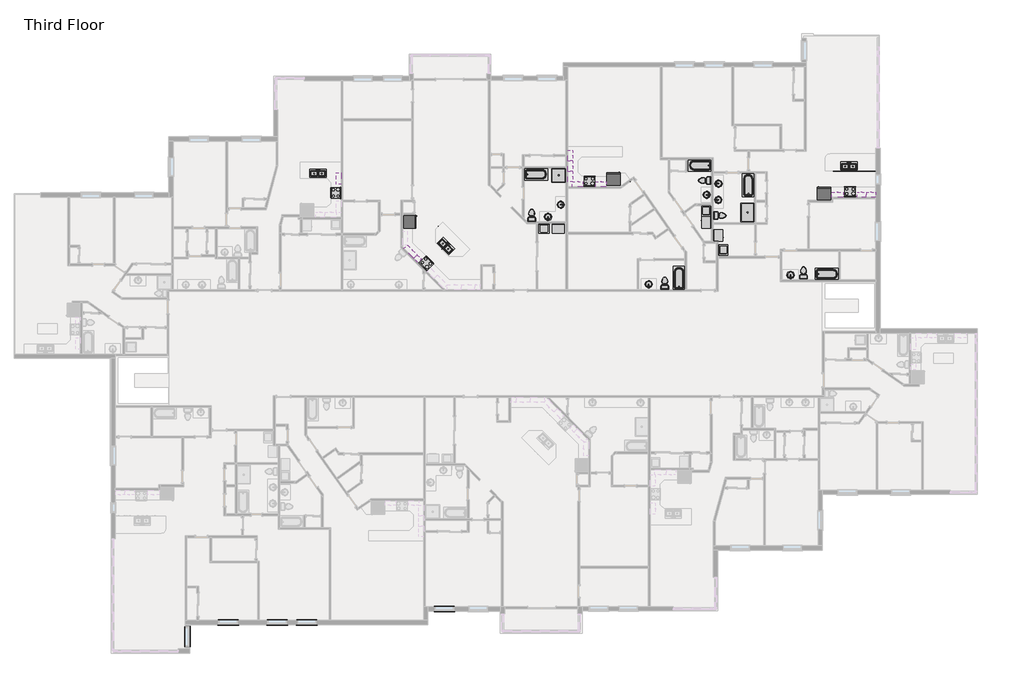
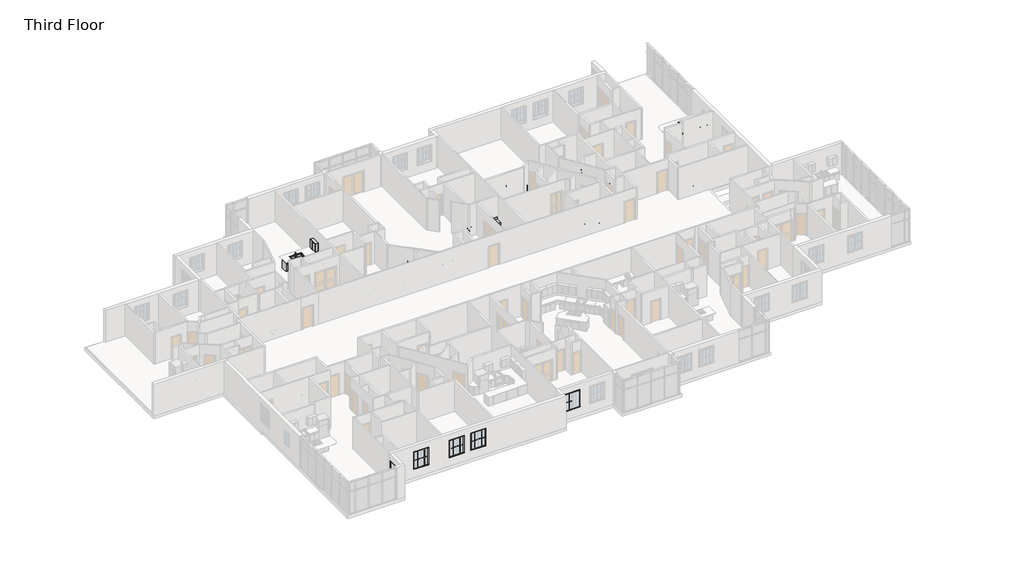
# One storey, part 16 of 17: 50 furniture elements, 32 proxies, 22 flow terminals.
"""IFC4 building model written with IfcOpenShell, lengths in millimetres."""

from ifc_helpers import new_model, si_unit, origin, place, context, project, spatial, transform, mapped, element, save
from components import proxy_6b4a07a9, muntin_pattern_2x2_muntin_pattern_2x2_6dad3731, muntin_pattern_2x2_muntin_pattern_2x2_a30a3345, proxy_fbb4c072, proxy_93150df1, proxy_9109806d, trim_window_exterior_flat_with_sill_92b9b949, trim_window_interior_flat_picture_frame_3bb882cf, proxy_718fa39f, flow_terminal_54cced83, flow_terminal_5dba0d75, flow_terminal_a53be723, flow_terminal_d49f872f, toilet_domestic_3d_toilet_domestic_3d_f7549cf7, toilet_domestic_3d_toilet_domestic_3d_183bbd19, tub_rectangular_3d_tub_rectangular_3d_72a4d900, tub_rectangular_3d_tub_rectangular_3d_cbc2c449, furniture_0fc2bd2a, furniture_337523c0, furniture_6e8794dd, furniture_07bc9410, furniture_6ace90bf, furniture_b282fead, furniture_6a014568, furniture_338da5bd, furniture_b74d3f52, furniture_7de88fd5, furniture_b4094f2d, furniture_07c0da44, furniture_bfd559e3, base_cabinet_filler_base_cabinet_filler_dff9ed13, base_cabinet_filler_base_cabinet_filler_01d9e414, base_cabinet_filler_base_cabinet_filler_890d7b95, base_cabinet_filler_base_cabinet_filler_ec835e29, base_cabinet_filler_base_cabinet_filler_5f1ac9d6, base_cabinet_filler_base_cabinet_filler_783ad0b1, base_cabinet_filler_base_cabinet_filler_ca2a3ea1, furniture_de2c603d, furniture_a8c34398, furniture_09d05a5b, furniture_b1f16c95, furniture_c6a3367d, furniture_a47b5ef4, furniture_9117db5d, furniture_b34976c1

model = new_model("IFC4")

# Units and contexts
model_context = context("Model", 3, world=origin())
ifc_project = project(units=[si_unit("LENGTHUNIT", "METRE", prefix="MILLI")], contexts=[model_context])

# Site, building, storey
site = spatial("IfcSite", under=ifc_project)
building = spatial("IfcBuilding", under=site)
storey = spatial("IfcBuildingStorey", under=building, Name="Third Floor", Elevation=6096.0)

# Proxies
placement = place(None, origin())
proxy_shape = proxy_6b4a07a9(model_context)
element("IfcBuildingElementProxy", 1, Name="Dryer : 30\" x 25\" x 35\"", ObjectType="Dryer : 30\" x 25\" x 35\"", at=placement, inside=storey, context=model_context, shape_type="MappedRepresentation", body=[
    mapped(proxy_shape, transform((35783.3803438, 6069.89864, 6096.0), x_axis=(1.0, 0.0, 0.0), y_axis=(0.0, 1.0, 0.0), z_axis=(0.0, 0.0, 1.0))),
])
element("IfcBuildingElementProxy", 2, Name="Dryer : 30\" x 25\" x 35\"", ObjectType="Dryer : 30\" x 25\" x 35\"", at=placement, inside=storey, context=model_context, shape_type="MappedRepresentation", body=[
    mapped(proxy_shape, transform((45605.9742487, 7175.2177628, 6096.0), x_axis=(0.0, -1.0, 0.0), y_axis=(1.0, 0.0, 0.0), z_axis=(0.0, 0.0, 1.0))),
])
element("IfcBuildingElementProxy", 3, Name="Dryer : 30\" x 25\" x 35\"", ObjectType="Dryer : 30\" x 25\" x 35\"", at=placement, inside=storey, context=model_context, shape_type="MappedRepresentation", body=[
    mapped(proxy_shape, transform((46984.5962563, 5488.2018914, 6096.0), x_axis=(0.0, 1.0, 0.0), y_axis=(-1.0, 0.0, 0.0), z_axis=(0.0, 0.0, 1.0))),
])
muntin_pattern_2x2_muntin_pattern_2x2_shape = muntin_pattern_2x2_muntin_pattern_2x2_6dad3731(model_context)
element("IfcBuildingElementProxy", 4, Name="Muntin Pattern_2x2 : Muntin Pattern_2x2", ObjectType="Muntin Pattern_2x2 : Muntin Pattern_2x2", at=placement, inside=storey, context=model_context, shape_type="MappedRepresentation", body=[
    mapped(muntin_pattern_2x2_muntin_pattern_2x2_shape, transform((20022.0240862, -19586.3365506, 7080.25), x_axis=(-1.0, 0.0, 0.0), y_axis=(0.0, -1.0, 0.0), z_axis=(0.0, 0.0, 1.0))),
])
element("IfcBuildingElementProxy", 5, Name="Muntin Pattern_2x2 : Muntin Pattern_2x2", ObjectType="Muntin Pattern_2x2 : Muntin Pattern_2x2", at=placement, inside=storey, context=model_context, shape_type="MappedRepresentation", body=[
    mapped(muntin_pattern_2x2_muntin_pattern_2x2_shape, transform((14867.9478712, -19586.3365506, 7080.25), x_axis=(-1.0, 0.0, 0.0), y_axis=(0.0, -1.0, 0.0), z_axis=(0.0, 0.0, 1.0))),
])
element("IfcBuildingElementProxy", 6, Name="Muntin Pattern_2x2 : Muntin Pattern_2x2", ObjectType="Muntin Pattern_2x2 : Muntin Pattern_2x2", at=placement, inside=storey, context=model_context, shape_type="MappedRepresentation", body=[
    mapped(muntin_pattern_2x2_muntin_pattern_2x2_shape, transform((18076.672872, -19586.3365506, 7080.25), x_axis=(-1.0, 0.0, 0.0), y_axis=(0.0, -1.0, 0.0), z_axis=(0.0, 0.0, 1.0))),
])
element("IfcBuildingElementProxy", 7, Name="Muntin Pattern_2x2 : Muntin Pattern_2x2", ObjectType="Muntin Pattern_2x2 : Muntin Pattern_2x2", at=placement, inside=storey, context=model_context, shape_type="MappedRepresentation", body=[
    mapped(muntin_pattern_2x2_muntin_pattern_2x2_shape, transform((12023.5634633, -20077.9243287, 7080.25), x_axis=(0.0, -1.0, 0.0), y_axis=(1.0, 0.0, 0.0), z_axis=(0.0, 0.0, 1.0))),
])
muntin_pattern_2x2_muntin_pattern_2x2_2_shape = muntin_pattern_2x2_muntin_pattern_2x2_a30a3345(model_context)
element("IfcBuildingElementProxy", 8, Name="Muntin Pattern_2x2 : Muntin Pattern_2x2", ObjectType="Muntin Pattern_2x2 : Muntin Pattern_2x2", at=placement, inside=storey, context=model_context, shape_type="MappedRepresentation", body=[
    mapped(muntin_pattern_2x2_muntin_pattern_2x2_2_shape, transform((19415.5990862, -19586.3365506, 7080.25), x_axis=(1.0, 0.0, 0.0), y_axis=(0.0, 1.0, 0.0), z_axis=(0.0, 0.0, 1.0))),
])
element("IfcBuildingElementProxy", 9, Name="Muntin Pattern_2x2 : Muntin Pattern_2x2", ObjectType="Muntin Pattern_2x2 : Muntin Pattern_2x2", at=placement, inside=storey, context=model_context, shape_type="MappedRepresentation", body=[
    mapped(muntin_pattern_2x2_muntin_pattern_2x2_2_shape, transform((14261.5228712, -19586.3365506, 7080.25), x_axis=(1.0, 0.0, 0.0), y_axis=(0.0, 1.0, 0.0), z_axis=(0.0, 0.0, 1.0))),
])
element("IfcBuildingElementProxy", 10, Name="Muntin Pattern_2x2 : Muntin Pattern_2x2", ObjectType="Muntin Pattern_2x2 : Muntin Pattern_2x2", at=placement, inside=storey, context=model_context, shape_type="MappedRepresentation", body=[
    mapped(muntin_pattern_2x2_muntin_pattern_2x2_2_shape, transform((28431.0115862, -18699.3191587, 7080.25), x_axis=(1.0, 0.0, 0.0), y_axis=(0.0, 1.0, 0.0), z_axis=(0.0, 0.0, 1.0))),
])
element("IfcBuildingElementProxy", 11, Name="Muntin Pattern_2x2 : Muntin Pattern_2x2", ObjectType="Muntin Pattern_2x2 : Muntin Pattern_2x2", at=placement, inside=storey, context=model_context, shape_type="MappedRepresentation", body=[
    mapped(muntin_pattern_2x2_muntin_pattern_2x2_2_shape, transform((17470.247872, -19586.3365506, 7080.25), x_axis=(1.0, 0.0, 0.0), y_axis=(0.0, 1.0, 0.0), z_axis=(0.0, 0.0, 1.0))),
])
element("IfcBuildingElementProxy", 12, Name="Muntin Pattern_2x2 : Muntin Pattern_2x2", ObjectType="Muntin Pattern_2x2 : Muntin Pattern_2x2", at=placement, inside=storey, context=model_context, shape_type="MappedRepresentation", body=[
    mapped(muntin_pattern_2x2_muntin_pattern_2x2_2_shape, transform((12023.5634633, -20684.3493287, 7080.25), x_axis=(0.0, 1.0, 0.0), y_axis=(-1.0, 0.0, 0.0), z_axis=(0.0, 0.0, 1.0))),
])
proxy_2_shape = proxy_fbb4c072(model_context)
element("IfcBuildingElementProxy", 13, Name="Range : 30\" x 26\"", ObjectType="Range : 30\" x 26\"", at=placement, inside=storey, context=model_context, shape_type="MappedRepresentation", body=[
    mapped(proxy_2_shape, transform((55706.1485135, 9105.3667096, 6096.0), x_axis=(-1.0, 0.0, 0.0), y_axis=(0.0, -1.0, 0.0), z_axis=(0.0, 0.0, 1.0))),
])
element("IfcBuildingElementProxy", 14, Name="Range : 30\" x 26\"", ObjectType="Range : 30\" x 26\"", at=placement, inside=storey, context=model_context, shape_type="MappedRepresentation", body=[
    mapped(proxy_2_shape, transform((38622.0783397, 9780.1410099, 6096.0), x_axis=(-1.0, 0.0, 0.0), y_axis=(0.0, -1.0, 0.0), z_axis=(0.0, 0.0, 1.0))),
])
element("IfcBuildingElementProxy", 15, Name="Range : 30\" x 26\"", ObjectType="Range : 30\" x 26\"", at=placement, inside=storey, context=model_context, shape_type="MappedRepresentation", body=[
    mapped(proxy_2_shape, transform((28043.6511381, 4045.4027795, 6096.0), x_axis=(-0.7071067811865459, 0.7071067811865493, 0.0), y_axis=(-0.7071067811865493, -0.7071067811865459, 0.0), z_axis=(0.0, 0.0, 1.0))),
])
element("IfcBuildingElementProxy", 16, Name="Range : 30\" x 26\"", ObjectType="Range : 30\" x 26\"", at=placement, inside=storey, context=model_context, shape_type="MappedRepresentation", body=[
    mapped(proxy_2_shape, transform((21305.5073571, 9084.405075, 6096.0), x_axis=(0.0, -1.0, 0.0), y_axis=(1.0, 0.0, 0.0), z_axis=(0.0, 0.0, 1.0))),
])
proxy_3_shape = proxy_93150df1(model_context)
element("IfcBuildingElementProxy", 17, Name="Refrigerator : 35\" x 32\" LH", ObjectType="Refrigerator : 35\" x 32\" LH", at=placement, inside=storey, context=model_context, shape_type="MappedRepresentation", body=[
    mapped(proxy_3_shape, transform((39817.0847694, 9590.3888634, 6096.0), x_axis=(-1.0, 0.0, 0.0), y_axis=(0.0, -1.0, 0.0), z_axis=(0.0, 0.0, 1.0))),
])
proxy_4_shape = proxy_9109806d(model_context)
element("IfcBuildingElementProxy", 18, Name="Refrigerator : 35\" x 32\" RH", ObjectType="Refrigerator : 35\" x 32\" RH", at=placement, inside=storey, context=model_context, shape_type="MappedRepresentation", body=[
    mapped(proxy_4_shape, transform((53624.9360135, 8648.9949749, 6096.0), x_axis=(-1.0, 0.0, 0.0), y_axis=(0.0, -1.0, 0.0), z_axis=(0.0, 0.0, 1.0))),
])
element("IfcBuildingElementProxy", 19, Name="Refrigerator : 35\" x 32\" RH", ObjectType="Refrigerator : 35\" x 32\" RH", at=placement, inside=storey, context=model_context, shape_type="MappedRepresentation", body=[
    mapped(proxy_4_shape, transform((26450.70388, 6811.7574244, 6096.0), x_axis=(0.0020172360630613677, 0.9999979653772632, 0.0), y_axis=(-0.9999979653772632, 0.0020172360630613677, 0.0), z_axis=(0.0, 0.0, 1.0))),
])
trim_window_exterior_flat_with_sill_shape = trim_window_exterior_flat_with_sill_92b9b949(model_context)
element("IfcBuildingElementProxy", 20, Name="Trim-Window-Exterior-Flat : with Sill", ObjectType="Trim-Window-Exterior-Flat : with Sill", at=placement, inside=storey, context=model_context, shape_type="MappedRepresentation", body=[
    mapped(trim_window_exterior_flat_with_sill_shape, transform((19718.8115862, -19595.8615506, 8534.4), x_axis=(1.0, 0.0, 0.0), y_axis=(0.0, 0.0, 1.0), z_axis=(0.0, -1.0, 0.0))),
])
element("IfcBuildingElementProxy", 21, Name="Trim-Window-Exterior-Flat : with Sill", ObjectType="Trim-Window-Exterior-Flat : with Sill", at=placement, inside=storey, context=model_context, shape_type="MappedRepresentation", body=[
    mapped(trim_window_exterior_flat_with_sill_shape, transform((14564.7353712, -19595.8615506, 8534.4), x_axis=(1.0, 0.0, 0.0), y_axis=(0.0, 0.0, 1.0), z_axis=(0.0, -1.0, 0.0))),
])
element("IfcBuildingElementProxy", 22, Name="Trim-Window-Exterior-Flat : with Sill", ObjectType="Trim-Window-Exterior-Flat : with Sill", at=placement, inside=storey, context=model_context, shape_type="MappedRepresentation", body=[
    mapped(trim_window_exterior_flat_with_sill_shape, transform((28734.2240862, -18708.8441587, 8534.4), x_axis=(1.0, 0.0, 0.0), y_axis=(0.0, 0.0, 1.0), z_axis=(0.0, -1.0, 0.0))),
])
element("IfcBuildingElementProxy", 23, Name="Trim-Window-Exterior-Flat : with Sill", ObjectType="Trim-Window-Exterior-Flat : with Sill", at=placement, inside=storey, context=model_context, shape_type="MappedRepresentation", body=[
    mapped(trim_window_exterior_flat_with_sill_shape, transform((17773.460372, -19595.8615506, 8534.4), x_axis=(1.0, 0.0, 0.0), y_axis=(0.0, 0.0, 1.0), z_axis=(0.0, -1.0, 0.0))),
])
element("IfcBuildingElementProxy", 24, Name="Trim-Window-Exterior-Flat : with Sill", ObjectType="Trim-Window-Exterior-Flat : with Sill", at=placement, inside=storey, context=model_context, shape_type="MappedRepresentation", body=[
    mapped(trim_window_exterior_flat_with_sill_shape, transform((12033.0884633, -20381.1368287, 8534.4), x_axis=(0.0, 1.0, 0.0), y_axis=(0.0, 0.0, 1.0), z_axis=(1.0, 0.0, 0.0))),
])
trim_window_interior_flat_picture_frame_shape = trim_window_interior_flat_picture_frame_3bb882cf(model_context)
element("IfcBuildingElementProxy", 25, Name="Trim-Window-Interior-Flat : Picture Frame", ObjectType="Trim-Window-Interior-Flat : Picture Frame", at=placement, inside=storey, context=model_context, shape_type="MappedRepresentation", body=[
    mapped(trim_window_interior_flat_picture_frame_shape, transform((19718.8115862, -19313.2865506, 8534.4), x_axis=(-1.0, 0.0, 0.0), y_axis=(0.0, 0.0, 1.0), z_axis=(0.0, 1.0, 0.0))),
])
element("IfcBuildingElementProxy", 26, Name="Trim-Window-Interior-Flat : Picture Frame", ObjectType="Trim-Window-Interior-Flat : Picture Frame", at=placement, inside=storey, context=model_context, shape_type="MappedRepresentation", body=[
    mapped(trim_window_interior_flat_picture_frame_shape, transform((14564.7353712, -19313.2865506, 8534.4), x_axis=(-1.0, 0.0, 0.0), y_axis=(0.0, 0.0, 1.0), z_axis=(0.0, 1.0, 0.0))),
])
element("IfcBuildingElementProxy", 27, Name="Trim-Window-Interior-Flat : Picture Frame", ObjectType="Trim-Window-Interior-Flat : Picture Frame", at=placement, inside=storey, context=model_context, shape_type="MappedRepresentation", body=[
    mapped(trim_window_interior_flat_picture_frame_shape, transform((28734.2240862, -18426.2691587, 8534.4), x_axis=(-1.0, 0.0, 0.0), y_axis=(0.0, 0.0, 1.0), z_axis=(0.0, 1.0, 0.0))),
])
element("IfcBuildingElementProxy", 28, Name="Trim-Window-Interior-Flat : Picture Frame", ObjectType="Trim-Window-Interior-Flat : Picture Frame", at=placement, inside=storey, context=model_context, shape_type="MappedRepresentation", body=[
    mapped(trim_window_interior_flat_picture_frame_shape, transform((17773.460372, -19313.2865506, 8534.4), x_axis=(-1.0, 0.0, 0.0), y_axis=(0.0, 0.0, 1.0), z_axis=(0.0, 1.0, 0.0))),
])
element("IfcBuildingElementProxy", 29, Name="Trim-Window-Interior-Flat : Picture Frame", ObjectType="Trim-Window-Interior-Flat : Picture Frame", at=placement, inside=storey, context=model_context, shape_type="MappedRepresentation", body=[
    mapped(trim_window_interior_flat_picture_frame_shape, transform((11750.5134633, -20381.1368287, 8534.4), x_axis=(0.0, -1.0, 0.0), y_axis=(0.0, 0.0, 1.0), z_axis=(-1.0, 0.0, 0.0))),
])
proxy_5_shape = proxy_718fa39f(model_context)
element("IfcBuildingElementProxy", 30, Name="Washer : 27\" x 25\" x 35\"", ObjectType="Washer : 27\" x 25\" x 35\"", at=placement, inside=storey, context=model_context, shape_type="MappedRepresentation", body=[
    mapped(proxy_5_shape, transform((34845.0746645, 6105.410079, 6096.0), x_axis=(1.0, 0.0, 0.0), y_axis=(0.0, 1.0, 0.0), z_axis=(0.0, 0.0, 1.0))),
])
element("IfcBuildingElementProxy", 31, Name="Washer : 27\" x 25\" x 35\"", ObjectType="Washer : 27\" x 25\" x 35\"", at=placement, inside=storey, context=model_context, shape_type="MappedRepresentation", body=[
    mapped(proxy_5_shape, transform((47265.412252, 4547.012838, 6096.0), x_axis=(0.0, 1.0, 0.0), y_axis=(-1.0, 0.0, 0.0), z_axis=(0.0, 0.0, 1.0))),
])
element("IfcBuildingElementProxy", 32, Name="Washer : 27\" x 25\" x 35\"", ObjectType="Washer : 27\" x 25\" x 35\"", at=placement, inside=storey, context=model_context, shape_type="MappedRepresentation", body=[
    mapped(proxy_5_shape, transform((45641.4856877, 7942.380883, 6096.0), x_axis=(0.0, -1.0, 0.0), y_axis=(1.0, 0.0, 0.0), z_axis=(0.0, 0.0, 1.0))),
])

# Flow terminals
flow_terminal_shape = flow_terminal_54cced83(model_context)
element("IfcFlowTerminal", 33, ObjectType="Shower Base-3D : 36\" x 36\"", at=placement, inside=storey, context=model_context, shape_type="MappedRepresentation", body=[
    mapped(flow_terminal_shape, transform((36225.8678001, 9849.9910099, 6096.0), x_axis=(1.0, 0.0, 0.0), y_axis=(0.0, 1.0, 0.0), z_axis=(0.0, 0.0, 1.0))),
])
flow_terminal_2_shape = flow_terminal_5dba0d75(model_context)
element("IfcFlowTerminal", 34, ObjectType="Shower Base-3D : 48\" x 34\"", at=placement, inside=storey, context=model_context, shape_type="MappedRepresentation", body=[
    mapped(flow_terminal_2_shape, transform((48606.6852525, 7416.8, 6096.0), x_axis=(0.0, 1.0, 0.0), y_axis=(-1.0, 0.0, 0.0), z_axis=(0.0, 0.0, 1.0))),
])
flow_terminal_3_shape = flow_terminal_a53be723(model_context)
element("IfcFlowTerminal", 35, ObjectType="Sink Kitchen-Double : 42\" x 21\"", at=placement, inside=storey, context=model_context, shape_type="MappedRepresentation", body=[
    mapped(flow_terminal_3_shape, transform((55238.0740966, 10470.4786098, 6096.0), x_axis=(1.0, 0.0, 0.0), y_axis=(0.0, 1.0, 0.0), z_axis=(0.0, 0.0, 1.0))),
])
element("IfcFlowTerminal", 36, ObjectType="Sink Kitchen-Double : 42\" x 21\"", at=placement, inside=storey, context=model_context, shape_type="MappedRepresentation", body=[
    mapped(flow_terminal_3_shape, transform((28820.7305792, 5237.5515776, 6096.0), x_axis=(0.7071067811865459, -0.7071067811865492, 0.0), y_axis=(0.7071067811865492, 0.7071067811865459, 0.0), z_axis=(0.0, 0.0, 1.0))),
])
element("IfcFlowTerminal", 37, ObjectType="Sink Kitchen-Double : 42\" x 21\"", at=placement, inside=storey, context=model_context, shape_type="MappedRepresentation", body=[
    mapped(flow_terminal_3_shape, transform((20432.5681165, 9996.4596739, 6096.0), x_axis=(1.0, 0.0, 0.0), y_axis=(0.0, 1.0, 0.0), z_axis=(0.0, 0.0, 1.0))),
])
flow_terminal_4_shape = flow_terminal_d49f872f(model_context)
element("IfcFlowTerminal", 38, ObjectType="Sink Vanity-Round : 19\" x 19\"", at=placement, inside=storey, context=model_context, shape_type="MappedRepresentation", body=[
    mapped(flow_terminal_4_shape, transform((51518.9261462, 3402.5686234, 6096.0), x_axis=(-1.0, 0.0, 0.0), y_axis=(0.0, -1.0, 0.0), z_axis=(0.0, 0.0, 1.0))),
])
element("IfcFlowTerminal", 39, ObjectType="Sink Vanity-Round : 19\" x 19\"", at=placement, inside=storey, context=model_context, shape_type="MappedRepresentation", body=[
    mapped(flow_terminal_4_shape, transform((46769.360735, 8145.114969, 6096.0), x_axis=(0.0, 1.0, 0.0), y_axis=(-1.0, 0.0, 0.0), z_axis=(0.0, 0.0, 1.0))),
])
element("IfcFlowTerminal", 40, ObjectType="Sink Vanity-Round : 19\" x 19\"", at=placement, inside=storey, context=model_context, shape_type="MappedRepresentation", body=[
    mapped(flow_terminal_4_shape, transform((46781.1377403, 9211.914969, 6096.0), x_axis=(0.0, 1.0, 0.0), y_axis=(-1.0, 0.0, 0.0), z_axis=(0.0, 0.0, 1.0))),
])
element("IfcFlowTerminal", 41, ObjectType="Sink Vanity-Round : 19\" x 19\"", at=placement, inside=storey, context=model_context, shape_type="MappedRepresentation", body=[
    mapped(flow_terminal_4_shape, transform((42218.0028589, 2791.1233129, 6096.0), x_axis=(-1.0, 0.0, 0.0), y_axis=(0.0, -1.0, 0.0), z_axis=(0.0, 0.0, 1.0))),
])
element("IfcFlowTerminal", 42, ObjectType="Sink Vanity-Round : 19\" x 19\"", at=placement, inside=storey, context=model_context, shape_type="MappedRepresentation", body=[
    mapped(flow_terminal_4_shape, transform((36278.8834938, 8026.036859, 6096.0), x_axis=(-0.0012471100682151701, -0.9999992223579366, 0.0), y_axis=(0.9999992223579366, -0.0012471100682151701, 0.0), z_axis=(0.0, 0.0, 1.0))),
])
element("IfcFlowTerminal", 43, ObjectType="Sink Vanity-Round : 19\" x 19\"", at=placement, inside=storey, context=model_context, shape_type="MappedRepresentation", body=[
    mapped(flow_terminal_4_shape, transform((35619.8891254, 7212.353211, 6096.0), x_axis=(-0.9999968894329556, 0.002494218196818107, 0.0), y_axis=(-0.002494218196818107, -0.9999968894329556, 0.0), z_axis=(0.0, 0.0, 1.0))),
])
element("IfcFlowTerminal", 44, ObjectType="Sink Vanity-Round : 19\" x 19\"", at=placement, inside=storey, context=model_context, shape_type="MappedRepresentation", body=[
    mapped(flow_terminal_4_shape, transform((45838.1211111, 8667.3095625, 6096.0), x_axis=(0.0, -1.0, 0.0), y_axis=(1.0, 0.0, 0.0), z_axis=(0.0, 0.0, 1.0))),
])
toilet_domestic_3d_toilet_domestic_3d_shape = toilet_domestic_3d_toilet_domestic_3d_f7549cf7(model_context)
toilet_domestic_3d_toilet_domestic_3d_2_shape = toilet_domestic_3d_toilet_domestic_3d_183bbd19(model_context)
element("IfcFlowTerminal", 45, ObjectType="Toilet-Domestic-3D : Toilet-Domestic-3D", at=placement, inside=storey, context=model_context, shape_type="MappedRepresentation", body=[
    mapped(toilet_domestic_3d_toilet_domestic_3d_shape, transform((52273.7982354, 3556.0, 6096.0), x_axis=(-1.0, 0.0, 0.0), y_axis=(0.0, -1.0, 0.0), z_axis=(0.0, 0.0, 1.0))),
    mapped(toilet_domestic_3d_toilet_domestic_3d_2_shape, transform((52273.7982354, 3556.0, 6096.0), x_axis=(-1.0, 0.0, 0.0), y_axis=(0.0, -1.0, 0.0), z_axis=(0.0, 0.0, 1.0))),
])
element("IfcFlowTerminal", 46, ObjectType="Toilet-Domestic-3D : Toilet-Domestic-3D", at=placement, inside=storey, context=model_context, shape_type="MappedRepresentation", body=[
    mapped(toilet_domestic_3d_toilet_domestic_3d_shape, transform((46888.4, 7213.6, 6096.0), x_axis=(0.0, 1.0, 0.0), y_axis=(-1.0, 0.0, 0.0), z_axis=(0.0, 0.0, 1.0))),
    mapped(toilet_domestic_3d_toilet_domestic_3d_2_shape, transform((46888.4, 7213.6, 6096.0), x_axis=(0.0, 1.0, 0.0), y_axis=(-1.0, 0.0, 0.0), z_axis=(0.0, 0.0, 1.0))),
])
element("IfcFlowTerminal", 47, ObjectType="Toilet-Domestic-3D : Toilet-Domestic-3D", at=placement, inside=storey, context=model_context, shape_type="MappedRepresentation", body=[
    mapped(toilet_domestic_3d_toilet_domestic_3d_shape, transform((45694.6, 9512.0893477, 6096.0), x_axis=(0.0, -1.0, 0.0), y_axis=(1.0, 0.0, 0.0), z_axis=(0.0, 0.0, 1.0))),
    mapped(toilet_domestic_3d_toilet_domestic_3d_2_shape, transform((45694.6, 9512.0893477, 6096.0), x_axis=(0.0, -1.0, 0.0), y_axis=(1.0, 0.0, 0.0), z_axis=(0.0, 0.0, 1.0))),
])
element("IfcFlowTerminal", 48, ObjectType="Toilet-Domestic-3D : Toilet-Domestic-3D", at=placement, inside=storey, context=model_context, shape_type="MappedRepresentation", body=[
    mapped(toilet_domestic_3d_toilet_domestic_3d_shape, transform((43180.0, 2882.9, 6096.0), x_axis=(-1.0, 0.0, 0.0), y_axis=(0.0, -1.0, 0.0), z_axis=(0.0, 0.0, 1.0))),
    mapped(toilet_domestic_3d_toilet_domestic_3d_2_shape, transform((43180.0, 2882.9, 6096.0), x_axis=(-1.0, 0.0, 0.0), y_axis=(0.0, -1.0, 0.0), z_axis=(0.0, 0.0, 1.0))),
])
element("IfcFlowTerminal", 49, ObjectType="Toilet-Domestic-3D : Toilet-Domestic-3D", at=placement, inside=storey, context=model_context, shape_type="MappedRepresentation", body=[
    mapped(toilet_domestic_3d_toilet_domestic_3d_shape, transform((34456.7727327, 7333.4715848, 6096.0), x_axis=(-1.0, 0.0, 0.0), y_axis=(0.0, -1.0, 0.0), z_axis=(0.0, 0.0, 1.0))),
    mapped(toilet_domestic_3d_toilet_domestic_3d_2_shape, transform((34456.7727327, 7333.4715848, 6096.0), x_axis=(-1.0, 0.0, 0.0), y_axis=(0.0, -1.0, 0.0), z_axis=(0.0, 0.0, 1.0))),
])
tub_rectangular_3d_tub_rectangular_3d_shape = tub_rectangular_3d_tub_rectangular_3d_72a4d900(model_context)
element("IfcFlowTerminal", 50, ObjectType="Tub-Rectangular-3D : Tub-Rectangular-3D", at=placement, inside=storey, context=model_context, shape_type="MappedRepresentation", body=[
    mapped(tub_rectangular_3d_tub_rectangular_3d_shape, transform((44549.1449591, 3463.6121401, 6096.0), x_axis=(0.0, 1.0, 0.0), y_axis=(-1.0, 0.0, 0.0), z_axis=(0.0, 0.0, 1.0))),
])
element("IfcFlowTerminal", 51, ObjectType="Tub-Rectangular-3D : Tub-Rectangular-3D", at=placement, inside=storey, context=model_context, shape_type="MappedRepresentation", body=[
    mapped(tub_rectangular_3d_tub_rectangular_3d_shape, transform((45138.2869119, 10944.1378349, 6096.0), x_axis=(-1.0, 0.0, 0.0), y_axis=(0.0, -1.0, 0.0), z_axis=(0.0, 0.0, 1.0))),
])
element("IfcFlowTerminal", 52, ObjectType="Tub-Rectangular-3D : Tub-Rectangular-3D", at=placement, inside=storey, context=model_context, shape_type="MappedRepresentation", body=[
    mapped(tub_rectangular_3d_tub_rectangular_3d_shape, transform((49089.4772963, 9555.5696783, 6096.0), x_axis=(0.0, 1.0, 0.0), y_axis=(-1.0, 0.0, 0.0), z_axis=(0.0, 0.0, 1.0))),
])
element("IfcFlowTerminal", 53, ObjectType="Tub-Rectangular-3D : Tub-Rectangular-3D", at=placement, inside=storey, context=model_context, shape_type="MappedRepresentation", body=[
    mapped(tub_rectangular_3d_tub_rectangular_3d_shape, transform((54149.0676523, 2945.4044819, 6096.0), x_axis=(1.0, 0.0, 0.0), y_axis=(0.0, 1.0, 0.0), z_axis=(0.0, 0.0, 1.0))),
])
tub_rectangular_3d_tub_rectangular_3d_2_shape = tub_rectangular_3d_tub_rectangular_3d_cbc2c449(model_context)
element("IfcFlowTerminal", 54, ObjectType="Tub-Rectangular-3D : Tub-Rectangular-3D", at=placement, inside=storey, context=model_context, shape_type="MappedRepresentation", body=[
    mapped(tub_rectangular_3d_tub_rectangular_3d_2_shape, transform((35083.0533193, 10357.9910099, 6096.0), x_axis=(1.0, 0.0, 0.0), y_axis=(0.0, 1.0, 0.0), z_axis=(0.0, 0.0, 1.0))),
])

# Furniture
furniture_shape = furniture_0fc2bd2a(model_context)
element("IfcFurniture", 55, ObjectType="Base Cabinet-Single Door & Drawer : 15\"'", at=placement, inside=storey, context=model_context, shape_type="MappedRepresentation", body=[
    mapped(furniture_shape, transform((56797.1256323, 10752.2240109, 6096.0), x_axis=(1.0, 0.0, 0.0), y_axis=(0.0, 1.0, 0.0), z_axis=(0.0, 0.0, 1.0))),
])
element("IfcFurniture", 56, ObjectType="Base Cabinet-Single Door & Drawer : 15\"'", at=placement, inside=storey, context=model_context, shape_type="MappedRepresentation", body=[
    mapped(furniture_shape, transform((26379.2350583, 4778.534813, 6096.0), x_axis=(-0.7056789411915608, 0.7085317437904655, 0.0), y_axis=(-0.7085317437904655, -0.7056789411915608, 0.0), z_axis=(0.0, 0.0, 1.0))),
])
furniture_2_shape = furniture_337523c0(model_context)
element("IfcFurniture", 57, ObjectType="Base Cabinet-Single Door & Drawer : 12\"", at=placement, inside=storey, context=model_context, shape_type="MappedRepresentation", body=[
    mapped(furniture_2_shape, transform((21965.9073571, 8151.2673701, 6096.0), x_axis=(0.0, 1.0, 0.0), y_axis=(-1.0, 0.0, 0.0), z_axis=(0.0, 0.0, 1.0))),
])
furniture_3_shape = furniture_6e8794dd(model_context)
element("IfcFurniture", 58, ObjectType="Base Cabinet-Single Door & Drawer : 12\"", at=placement, inside=storey, context=model_context, shape_type="MappedRepresentation", body=[
    mapped(furniture_3_shape, transform((21965.9073571, 9255.5427799, 6096.0), x_axis=(0.0, -1.0, 0.0), y_axis=(1.0, 0.0, 0.0), z_axis=(0.0, 0.0, 1.0))),
])
furniture_4_shape = furniture_07bc9410(model_context)
element("IfcFurniture", 59, ObjectType="Base Cabinet-Single Door & Drawer : 18\"", at=placement, inside=storey, context=model_context, shape_type="MappedRepresentation", body=[
    mapped(furniture_4_shape, transform((56766.9108085, 8422.9542414, 6096.0), x_axis=(1.0, 0.0, 0.0), y_axis=(0.0, 1.0, 0.0), z_axis=(0.0, 0.0, 1.0))),
])
furniture_5_shape = furniture_6ace90bf(model_context)
element("IfcFurniture", 60, ObjectType="Base Cabinet-Single Door & Drawer : 18\"", at=placement, inside=storey, context=model_context, shape_type="MappedRepresentation", body=[
    mapped(furniture_5_shape, transform((54396.8256323, 10752.2240109, 6096.0), x_axis=(1.0, 0.0, 0.0), y_axis=(0.0, 1.0, 0.0), z_axis=(0.0, 0.0, 1.0))),
])
element("IfcFurniture", 61, ObjectType="Base Cabinet-Single Door & Drawer : 18\"", at=placement, inside=storey, context=model_context, shape_type="MappedRepresentation", body=[
    mapped(furniture_5_shape, transform((40152.0280135, 11733.611548, 6096.0), x_axis=(1.0, 0.0, 0.0), y_axis=(0.0, 1.0, 0.0), z_axis=(0.0, 0.0, 1.0))),
])
furniture_6_shape = furniture_b282fead(model_context)
element("IfcFurniture", 62, ObjectType="Base Cabinet-Single Door & Drawer : 21\"", at=placement, inside=storey, context=model_context, shape_type="MappedRepresentation", body=[
    mapped(furniture_6_shape, transform((19553.2196522, 10303.605075, 6096.0), x_axis=(1.0, 0.0, 0.0), y_axis=(0.0, 1.0, 0.0), z_axis=(0.0, 0.0, 1.0))),
])
furniture_7_shape = furniture_6a014568(model_context)
element("IfcFurniture", 63, ObjectType="Base Cabinet-Single Door & Drawer : 24\"", at=placement, inside=storey, context=model_context, shape_type="MappedRepresentation", body=[
    mapped(furniture_7_shape, transform((28846.7325549, 6103.4702041, 6096.0), x_axis=(-0.7071067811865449, -0.7071067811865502, 0.0), y_axis=(0.7071067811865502, -0.7071067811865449, 0.0), z_axis=(0.0, 0.0, 1.0))),
])
element("IfcFurniture", 64, ObjectType="Base Cabinet-Single Door & Drawer : 24\"", at=placement, inside=storey, context=model_context, shape_type="MappedRepresentation", body=[
    mapped(furniture_7_shape, transform((29682.3380261, 5214.8665001, 6096.0), x_axis=(0.7071067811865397, 0.7071067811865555, 0.0), y_axis=(-0.7071067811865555, 0.7071067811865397, 0.0), z_axis=(0.0, 0.0, 1.0))),
])
furniture_8_shape = furniture_338da5bd(model_context)
element("IfcFurniture", 65, ObjectType="Base Cabinet-Double Door & 2 Drawer : 30\"", at=placement, inside=storey, context=model_context, shape_type="MappedRepresentation", body=[
    mapped(furniture_8_shape, transform((56225.6256323, 10752.2240109, 6096.0), x_axis=(1.0, 0.0, 0.0), y_axis=(0.0, 1.0, 0.0), z_axis=(0.0, 0.0, 1.0))),
])
element("IfcFurniture", 66, ObjectType="Base Cabinet-Double Door & 2 Drawer : 30\"", at=placement, inside=storey, context=model_context, shape_type="MappedRepresentation", body=[
    mapped(furniture_8_shape, transform((36816.4178001, 10406.7738431, 6096.0), x_axis=(0.0, 1.0, 0.0), y_axis=(-1.0, 0.0, 0.0), z_axis=(0.0, 0.0, 1.0))),
])
element("IfcFurniture", 67, ObjectType="Base Cabinet-Double Door & 2 Drawer : 30\"", at=placement, inside=storey, context=model_context, shape_type="MappedRepresentation", body=[
    mapped(furniture_8_shape, transform((39016.6724743, 9119.7410099, 6096.0), x_axis=(-1.0, 0.0, 0.0), y_axis=(0.0, -1.0, 0.0), z_axis=(0.0, 0.0, 1.0))),
])
furniture_9_shape = furniture_b74d3f52(model_context)
element("IfcFurniture", 68, ObjectType="Base Cabinet-Double Door & 2 Drawer : 33\"", at=placement, inside=storey, context=model_context, shape_type="MappedRepresentation", body=[
    mapped(furniture_9_shape, transform((56106.5108085, 8422.9542414, 6096.0), x_axis=(1.0, 0.0, 0.0), y_axis=(0.0, 1.0, 0.0), z_axis=(0.0, 0.0, 1.0))),
])
furniture_10_shape = furniture_7de88fd5(model_context)
element("IfcFurniture", 69, ObjectType="Base Cabinet-Double Door & 2 Drawer : 33\"", at=placement, inside=storey, context=model_context, shape_type="MappedRepresentation", body=[
    mapped(furniture_10_shape, transform((54543.7862184, 8422.9542414, 6096.0), x_axis=(-1.0, 0.0, 0.0), y_axis=(0.0, -1.0, 0.0), z_axis=(0.0, 0.0, 1.0))),
])
furniture_11_shape = furniture_b4094f2d(model_context)
element("IfcFurniture", 70, ObjectType="Base Cabinet-Double Door & 2 Drawer : 39\"", at=placement, inside=storey, context=model_context, shape_type="MappedRepresentation", body=[
    mapped(furniture_11_shape, transform((38207.3800952, 11733.611548, 6096.0), x_axis=(1.0, 0.0, 0.0), y_axis=(0.0, 1.0, 0.0), z_axis=(0.0, 0.0, 1.0))),
])
furniture_12_shape = furniture_07c0da44(model_context)
element("IfcFurniture", 71, ObjectType="Base Cabinet-Double Door & 2 Drawer : 48\"", at=placement, inside=storey, context=model_context, shape_type="MappedRepresentation", body=[
    mapped(furniture_12_shape, transform((55235.0256323, 10752.2240109, 6096.0), x_axis=(1.0, 0.0, 0.0), y_axis=(0.0, 1.0, 0.0), z_axis=(0.0, 0.0, 1.0))),
])
element("IfcFurniture", 72, ObjectType="Base Cabinet-Double Door & 2 Drawer : 48\"", at=placement, inside=storey, context=model_context, shape_type="MappedRepresentation", body=[
    mapped(furniture_12_shape, transform((39313.8280135, 11733.611548, 6096.0), x_axis=(1.0, 0.0, 0.0), y_axis=(0.0, 1.0, 0.0), z_axis=(0.0, 0.0, 1.0))),
])
element("IfcFurniture", 73, ObjectType="Base Cabinet-Double Door & 2 Drawer : 48\"", at=placement, inside=storey, context=model_context, shape_type="MappedRepresentation", body=[
    mapped(furniture_12_shape, transform((29035.7595853, 5456.8917634, 6096.0), x_axis=(0.7071067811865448, -0.7071067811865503, 0.0), y_axis=(0.7071067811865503, 0.7071067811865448, 0.0), z_axis=(0.0, 0.0, 1.0))),
])
element("IfcFurniture", 74, ObjectType="Base Cabinet-Double Door & 2 Drawer : 48\"", at=placement, inside=storey, context=model_context, shape_type="MappedRepresentation", body=[
    mapped(furniture_12_shape, transform((29062.2587018, 5430.392647, 6096.0), x_axis=(-0.7071067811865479, 0.7071067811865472, 0.0), y_axis=(-0.7071067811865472, -0.7071067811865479, 0.0), z_axis=(0.0, 0.0, 1.0))),
])
element("IfcFurniture", 75, ObjectType="Base Cabinet-Double Door & 2 Drawer : 48\"", at=placement, inside=storey, context=model_context, shape_type="MappedRepresentation", body=[
    mapped(furniture_12_shape, transform((20429.5196522, 10303.605075, 6096.0), x_axis=(1.0, 0.0, 0.0), y_axis=(0.0, 1.0, 0.0), z_axis=(0.0, 0.0, 1.0))),
])
furniture_13_shape = furniture_bfd559e3(model_context)
element("IfcFurniture", 76, ObjectType="Base Cabinet-Corner Unit-Angled : 36\"", at=placement, inside=storey, context=model_context, shape_type="MappedRepresentation", body=[
    mapped(furniture_13_shape, transform((36816.4178001, 11206.8738431, 6096.0), x_axis=(0.0, 1.0, 0.0), y_axis=(-1.0, 0.0, 0.0), z_axis=(0.0, 0.0, 1.0))),
])
element("IfcFurniture", 77, ObjectType="Base Cabinet-Corner Unit-Angled : 36\"", at=placement, inside=storey, context=model_context, shape_type="MappedRepresentation", body=[
    mapped(furniture_13_shape, transform((37343.155505, 9119.7410099, 6096.0), x_axis=(-1.0, 0.0, 0.0), y_axis=(0.0, -1.0, 0.0), z_axis=(0.0, 0.0, 1.0))),
])
element("IfcFurniture", 78, ObjectType="Base Cabinet-Corner Unit-Angled : 36\"", at=placement, inside=storey, context=model_context, shape_type="MappedRepresentation", body=[
    mapped(furniture_13_shape, transform((21445.5196522, 10303.605075, 6096.0), x_axis=(1.0, 0.0, 0.0), y_axis=(0.0, 1.0, 0.0), z_axis=(0.0, 0.0, 1.0))),
])
base_cabinet_filler_base_cabinet_filler_shape = base_cabinet_filler_base_cabinet_filler_dff9ed13(model_context)
element("IfcFurniture", 79, ObjectType="Base Cabinet-Filler : Base Cabinet-Filler", at=placement, inside=storey, context=model_context, shape_type="MappedRepresentation", body=[
    mapped(base_cabinet_filler_base_cabinet_filler_shape, transform((56569.4362184, 8422.9542414, 6096.0), x_axis=(-1.0, 0.0, 0.0), y_axis=(0.0, -1.0, 0.0), z_axis=(0.0, 0.0, 1.0))),
])
element("IfcFurniture", 80, ObjectType="Base Cabinet-Filler : Base Cabinet-Filler", at=placement, inside=storey, context=model_context, shape_type="MappedRepresentation", body=[
    mapped(base_cabinet_filler_base_cabinet_filler_shape, transform((36816.4178001, 10794.1238431, 6096.0), x_axis=(0.0, 1.0, 0.0), y_axis=(-1.0, 0.0, 0.0), z_axis=(0.0, 0.0, 1.0))),
])
base_cabinet_filler_base_cabinet_filler_2_shape = base_cabinet_filler_base_cabinet_filler_01d9e414(model_context)
element("IfcFurniture", 81, ObjectType="Base Cabinet-Filler : Base Cabinet-Filler", at=placement, inside=storey, context=model_context, shape_type="MappedRepresentation", body=[
    mapped(base_cabinet_filler_base_cabinet_filler_2_shape, transform((54103.2549684, 8422.9542414, 6096.0), x_axis=(-1.0, 0.0, 0.0), y_axis=(0.0, -1.0, 0.0), z_axis=(0.0, 0.0, 1.0))),
])
base_cabinet_filler_base_cabinet_filler_3_shape = base_cabinet_filler_base_cabinet_filler_890d7b95(model_context)
element("IfcFurniture", 82, ObjectType="Base Cabinet-Filler : Base Cabinet-Filler", at=placement, inside=storey, context=model_context, shape_type="MappedRepresentation", body=[
    mapped(base_cabinet_filler_base_cabinet_filler_3_shape, transform((37814.1857749, 9119.7410099, 6096.0), x_axis=(-1.0, 0.0, 0.0), y_axis=(0.0, -1.0, 0.0), z_axis=(0.0, 0.0, 1.0))),
])
base_cabinet_filler_base_cabinet_filler_4_shape = base_cabinet_filler_base_cabinet_filler_ec835e29(model_context)
element("IfcFurniture", 83, ObjectType="Base Cabinet-Filler : Base Cabinet-Filler", at=placement, inside=storey, context=model_context, shape_type="MappedRepresentation", body=[
    mapped(base_cabinet_filler_base_cabinet_filler_4_shape, transform((36816.4178001, 10020.588574, 6096.0), x_axis=(0.0, 1.0, 0.0), y_axis=(-1.0, 0.0, 0.0), z_axis=(0.0, 0.0, 1.0))),
])
base_cabinet_filler_base_cabinet_filler_5_shape = base_cabinet_filler_base_cabinet_filler_5f1ac9d6(model_context)
element("IfcFurniture", 84, ObjectType="Base Cabinet-Filler : Base Cabinet-Filler", at=placement, inside=storey, context=model_context, shape_type="MappedRepresentation", body=[
    mapped(base_cabinet_filler_base_cabinet_filler_5_shape, transform((26218.4790677, 4939.8859635, 6096.0), x_axis=(-0.7071067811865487, 0.7071067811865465, 0.0), y_axis=(-0.7071067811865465, -0.7071067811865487, 0.0), z_axis=(0.0, 0.0, 1.0))),
])
base_cabinet_filler_base_cabinet_filler_6_shape = base_cabinet_filler_base_cabinet_filler_783ad0b1(model_context)
element("IfcFurniture", 85, ObjectType="Base Cabinet-Filler : Base Cabinet-Filler", at=placement, inside=storey, context=model_context, shape_type="MappedRepresentation", body=[
    mapped(base_cabinet_filler_base_cabinet_filler_6_shape, transform((40434.2606244, 9359.1610724, 6096.0), x_axis=(-1.0, 0.0, 0.0), y_axis=(0.0, -1.0, 0.0), z_axis=(0.0, 0.0, 1.0))),
])
base_cabinet_filler_base_cabinet_filler_7_shape = base_cabinet_filler_base_cabinet_filler_ca2a3ea1(model_context)
element("IfcFurniture", 86, ObjectType="Base Cabinet-Filler : Base Cabinet-Filler", at=placement, inside=storey, context=model_context, shape_type="MappedRepresentation", body=[
    mapped(base_cabinet_filler_base_cabinet_filler_7_shape, transform((40263.4113047, 9344.8085699, 6096.0), x_axis=(-0.573576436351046, 0.8191520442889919, 0.0), y_axis=(-0.8191520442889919, -0.573576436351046, 0.0), z_axis=(0.0, 0.0, 1.0))),
])
furniture_14_shape = furniture_de2c603d(model_context)
element("IfcFurniture", 87, ObjectType="Upper Cabinet-Double Door-Wall : 24\"", at=placement, inside=storey, context=model_context, shape_type="MappedRepresentation", body=[
    mapped(furniture_14_shape, transform((56674.1251076, 8368.7667096, 6096.0), x_axis=(1.0, 0.0, 0.0), y_axis=(0.0, 1.0, 0.0), z_axis=(0.0, 0.0, 1.0))),
])
element("IfcFurniture", 88, ObjectType="Upper Cabinet-Double Door-Wall : 24\"", at=placement, inside=storey, context=model_context, shape_type="MappedRepresentation", body=[
    mapped(furniture_14_shape, transform((56064.5251076, 8368.7667096, 6096.0), x_axis=(1.0, 0.0, 0.0), y_axis=(0.0, 1.0, 0.0), z_axis=(0.0, 0.0, 1.0))),
])
furniture_15_shape = furniture_a8c34398(model_context)
element("IfcFurniture", 89, ObjectType="Upper Cabinet-Double Door-Wall : 27\"", at=placement, inside=storey, context=model_context, shape_type="MappedRepresentation", body=[
    mapped(furniture_15_shape, transform((38964.6966373, 9062.5910099, 6096.0), x_axis=(1.0, 0.0, 0.0), y_axis=(0.0, 1.0, 0.0), z_axis=(0.0, 0.0, 1.0))),
])
element("IfcFurniture", 90, ObjectType="Upper Cabinet-Double Door-Wall : 27\"", at=placement, inside=storey, context=model_context, shape_type="MappedRepresentation", body=[
    mapped(furniture_15_shape, transform((37434.3466373, 9062.5910099, 6096.0), x_axis=(1.0, 0.0, 0.0), y_axis=(0.0, 1.0, 0.0), z_axis=(0.0, 0.0, 1.0))),
])
element("IfcFurniture", 91, ObjectType="Upper Cabinet-Double Door-Wall : 27\"", at=placement, inside=storey, context=model_context, shape_type="MappedRepresentation", body=[
    mapped(furniture_15_shape, transform((36759.2678001, 9797.2121727, 6096.0), x_axis=(0.0, -1.0, 0.0), y_axis=(1.0, 0.0, 0.0), z_axis=(0.0, 0.0, 1.0))),
])
element("IfcFurniture", 92, ObjectType="Upper Cabinet-Double Door-Wall : 27\"", at=placement, inside=storey, context=model_context, shape_type="MappedRepresentation", body=[
    mapped(furniture_15_shape, transform((36759.2678001, 10483.0121727, 6096.0), x_axis=(0.0, -1.0, 0.0), y_axis=(1.0, 0.0, 0.0), z_axis=(0.0, 0.0, 1.0))),
])
furniture_16_shape = furniture_09d05a5b(model_context)
element("IfcFurniture", 93, ObjectType="Upper Cabinet-Double Door-Wall : 27\"", at=placement, inside=storey, context=model_context, shape_type="MappedRepresentation", body=[
    mapped(furniture_16_shape, transform((36759.2678001, 11109.2698471, 6096.0), x_axis=(0.0, 1.0, 0.0), y_axis=(-1.0, 0.0, 0.0), z_axis=(0.0, 0.0, 1.0))),
])
furniture_17_shape = furniture_b1f16c95(model_context)
element("IfcFurniture", 94, ObjectType="Upper Cabinet-Double Door-Wall : 30\"", at=placement, inside=storey, context=model_context, shape_type="MappedRepresentation", body=[
    mapped(furniture_17_shape, transform((54482.5773507, 8368.7667096, 6096.0), x_axis=(1.0, 0.0, 0.0), y_axis=(0.0, 1.0, 0.0), z_axis=(0.0, 0.0, 1.0))),
])
element("IfcFurniture", 95, ObjectType="Upper Cabinet-Double Door-Wall : 30\"", at=placement, inside=storey, context=model_context, shape_type="MappedRepresentation", body=[
    mapped(furniture_17_shape, transform((22023.0573571, 9611.4358332, 6096.0), x_axis=(0.0, 1.0, 0.0), y_axis=(-1.0, 0.0, 0.0), z_axis=(0.0, 0.0, 1.0))),
])
furniture_18_shape = furniture_c6a3367d(model_context)
element("IfcFurniture", 96, ObjectType="Upper Cabinet-Double Door-Wall : 36\"", at=placement, inside=storey, context=model_context, shape_type="MappedRepresentation", body=[
    mapped(furniture_18_shape, transform((26346.780607, 4715.1954791, 6096.0), x_axis=(0.707106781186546, -0.7071067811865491, 0.0), y_axis=(0.7071067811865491, 0.707106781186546, 0.0), z_axis=(0.0, 0.0, 1.0))),
])
furniture_19_shape = furniture_a47b5ef4(model_context)
element("IfcFurniture", 97, ObjectType="Upper Cabinet-Single Door-Wall : 15\"", at=placement, inside=storey, context=model_context, shape_type="MappedRepresentation", body=[
    mapped(furniture_19_shape, transform((26846.8764513, 4215.0996347, 6096.0), x_axis=(-0.707106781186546, 0.7071067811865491, 0.0), y_axis=(-0.7071067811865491, -0.707106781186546, 0.0), z_axis=(0.0, 0.0, 1.0))),
])
furniture_20_shape = furniture_9117db5d(model_context)
element("IfcFurniture", 98, ObjectType="Vanity Cabinet-Double Door Sink Unit : 39\"", at=placement, inside=storey, context=model_context, shape_type="MappedRepresentation", body=[
    mapped(furniture_20_shape, transform((51441.0121106, 3002.5544819, 6096.0), x_axis=(-1.0, 0.0, 0.0), y_axis=(0.0, -1.0, 0.0), z_axis=(0.0, 0.0, 1.0))),
])
element("IfcFurniture", 99, ObjectType="Vanity Cabinet-Double Door Sink Unit : 39\"", at=placement, inside=storey, context=model_context, shape_type="MappedRepresentation", body=[
    mapped(furniture_20_shape, transform((42140.0888233, 2391.1091714, 6096.0), x_axis=(-1.0, 0.0, 0.0), y_axis=(0.0, -1.0, 0.0), z_axis=(0.0, 0.0, 1.0))),
])
element("IfcFurniture", 100, ObjectType="Vanity Cabinet-Double Door Sink Unit : 39\"", at=placement, inside=storey, context=model_context, shape_type="MappedRepresentation", body=[
    mapped(furniture_20_shape, transform((46238.1352525, 8589.3955268, 6096.0), x_axis=(0.0, -1.0, 0.0), y_axis=(1.0, 0.0, 0.0), z_axis=(0.0, 0.0, 1.0))),
])
furniture_21_shape = furniture_b34976c1(model_context)
element("IfcFurniture", 101, ObjectType="Vanity Cabinet-Double Door Sink Unit : 42\"", at=placement, inside=storey, context=model_context, shape_type="MappedRepresentation", body=[
    mapped(furniture_21_shape, transform((46371.4852525, 9289.8290047, 6096.0), x_axis=(0.0, 1.0, 0.0), y_axis=(-1.0, 0.0, 0.0), z_axis=(0.0, 0.0, 1.0))),
])
element("IfcFurniture", 102, ObjectType="Vanity Cabinet-Double Door Sink Unit : 42\"", at=placement, inside=storey, context=model_context, shape_type="MappedRepresentation", body=[
    mapped(furniture_21_shape, transform((46371.4852525, 8223.0290047, 6096.0), x_axis=(0.0, 1.0, 0.0), y_axis=(-1.0, 0.0, 0.0), z_axis=(0.0, 0.0, 1.0))),
])
element("IfcFurniture", 103, ObjectType="Vanity Cabinet-Double Door Sink Unit : 42\"", at=placement, inside=storey, context=model_context, shape_type="MappedRepresentation", body=[
    mapped(furniture_21_shape, transform((35540.9535695, 6802.8963321, 6096.0), x_axis=(-0.9999968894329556, 0.002494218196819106, 0.0), y_axis=(-0.002494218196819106, -0.9999968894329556, 0.0), z_axis=(0.0, 0.0, 1.0))),
])
element("IfcFurniture", 104, ObjectType="Vanity Cabinet-Double Door Sink Unit : 42\"", at=placement, inside=storey, context=model_context, shape_type="MappedRepresentation", body=[
    mapped(furniture_21_shape, transform((36676.6614995, 7947.6266894, 6096.0), x_axis=(-0.0012471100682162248, -0.9999992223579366, 0.0), y_axis=(0.9999992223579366, -0.0012471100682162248, 0.0), z_axis=(0.0, 0.0, 1.0))),
])

save(model, "model.ifc")
